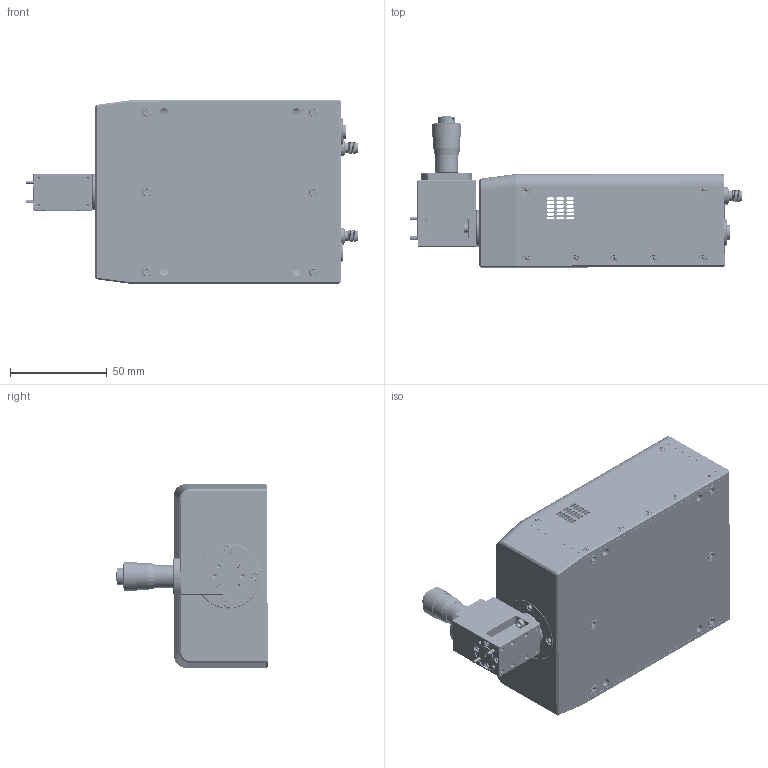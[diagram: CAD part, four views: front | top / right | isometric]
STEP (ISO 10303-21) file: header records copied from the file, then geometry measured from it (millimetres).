
FILE_DESCRIPTION (( 'STEP AP203' ), '1' );
FILE_NAME ('TO-RW-A Mountable.STEP', '2024-09-30T21:31:45', ( '' ), ( '' ), 'SwSTEP 2.0', 'SolidWorks 2021', '' );
FILE_SCHEMA (( 'CONFIG_CONTROL_DESIGN' ));
Products named in the file (1): TO-RW-A Mountable
Bounding box: 171.94 x 78.28 x 95.36 mm (x, y, z)
Volume: 231121.5 mm3; surface area: 126466.8 mm2
Topology: 73 solids, 78 shells, 4448 faces, 11518 edges, 7270 vertices
Faces by surface type: cylinder 1964, plane 1311, cone 877, bspline 263, sphere 21, torus 12
Entity records: 214826 total; most frequent: CARTESIAN_POINT 115361, ORIENTED_EDGE 22694, DIRECTION 18637, EDGE_CURVE 11347, VERTEX_POINT 7264, AXIS2_PLACEMENT_3D 7109, EDGE_LOOP 4905, FACE_OUTER_BOUND 4448
